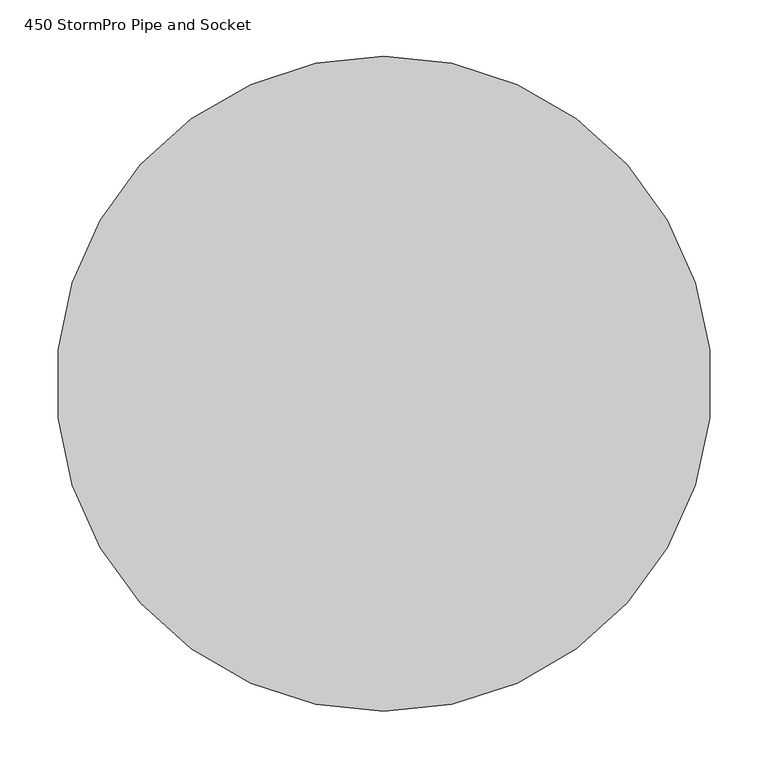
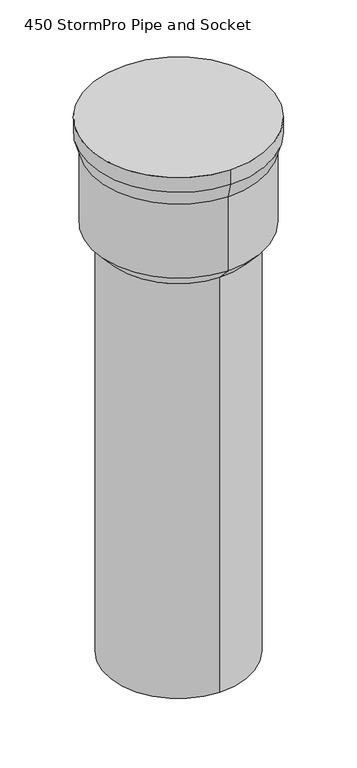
"""IFC4 building model written with IfcOpenShell, lengths in millimetres: proxy geometry, 450 StormPro Pipe and Socket."""

from ifc_helpers import new_model, si_unit, frame, origin, place, context, project, spatial, polyline, circle_curve, source, transform, mapped, element, save
from ifc_brep_helpers import plane_surface, cylinder_surface, revolved_surface, advanced_brep


def proxy_450_stormpro_pipe_and_socket_e8ca657c(model_context):
    return source(origin(), model_context, "Body", "AdvancedBrep", [
        advanced_brep(
        [(0.0, 231.0, 2700.0), (0.0, 276.0, 2750.0), (0.0, -276.0, 2750.0), (0.0, -231.0, 2700.0), (0.0, 231.0, 1300.0), (0.0, -231.0, 1300.0), (0.0, 291.0, 3050.0), (0.0, 291.0, 3100.0), (0.0, -291.0, 3100.0), (0.0, -291.0, 3050.0), (0.0, 276.0, 3000.0), (0.0, -276.0, 3000.0), (-199.6867895, -116.1300396, 1300.0)],
        [
            (0, 1),
            (1, 2, circle_curve(frame((0.0, 0.0, 2750.0), z_axis=(0.0, 0.0, -1.0), x_axis=(0.0, -1.0, 0.0)), 276.0)),
            (2, 3),
            (3, 0, circle_curve(frame((0.0, 0.0, 2700.0), z_axis=(0.0, 0.0, 1.0), x_axis=(0.0, -1.0, 0.0)), 231.0)),
            (4, 0),
            (3, 5),
            (5, 4, circle_curve(frame((0.0, 0.0, 1300.0), z_axis=(0.0, 0.0, 1.0), x_axis=(0.0, 1.0, 0.0)), 231.0)),
            (6, 7),
            (7, 8, circle_curve(frame((0.0, 0.0, 3100.0), z_axis=(0.0, 0.0, -1.0), x_axis=(0.0, 1.0, 0.0)), 291.0)),
            (8, 9),
            (9, 6, circle_curve(frame((0.0, 0.0, 3050.0), z_axis=(0.0, 0.0, 1.0), x_axis=(0.0, 1.0, 0.0)), 291.0)),
            (10, 6),
            (9, 11),
            (11, 10, circle_curve(frame((0.0, 0.0, 3000.0), z_axis=(0.0, 0.0, 1.0), x_axis=(0.0, -1.0, 0.0)), 276.0)),
            (1, 10),
            (11, 2),
            (7, 8, circle_curve(frame((0.0, 0.0, 3100.0), z_axis=(0.0, 0.0, 1.0), x_axis=(0.0, 1.0, 0.0)), 291.0)),
            (5, 12, circle_curve(frame((0.0, 0.0, 1300.0), z_axis=(0.0, 0.0, -1.0), x_axis=(0.0, 1.0, 0.0)), 231.0)),
            (12, 4, circle_curve(frame((0.0, 0.0, 1300.0), z_axis=(0.0, 0.0, -1.0), x_axis=(0.0, 1.0, 0.0)), 231.0)),
            (1, 2, circle_curve(frame((0.0, 0.0, 2750.0), z_axis=(0.0, 0.0, 1.0), x_axis=(0.0, 1.0, 0.0)), 276.0)),
            (11, 10, circle_curve(frame((0.0, 0.0, 3000.0), z_axis=(0.0, 0.0, -1.0), x_axis=(0.0, 1.0, 0.0)), 276.0)),
            (9, 6, circle_curve(frame((0.0, 0.0, 3050.0), z_axis=(0.0, 0.0, -1.0), x_axis=(0.0, 1.0, 0.0)), 291.0)),
            (3, 0, circle_curve(frame((0.0, 0.0, 2700.0), z_axis=(0.0, 0.0, -1.0), x_axis=(0.0, 1.0, 0.0)), 231.0)),
        ],
        [
            revolved_surface(polyline([(0.0, 231.0000000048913, 2700.0), (0.0, 276.0, 2750.0)]), (0.0, 0.0, 2443.3333333), (0.0, 0.0, 1.0)),
            cylinder_surface(frame((0.0, 0.0, 1350.0), z_axis=(0.0, 0.0, 1.0), x_axis=(0.0, 1.0, 0.0)), 231.0),
            cylinder_surface(frame((0.0, 0.0, 3075.0), z_axis=(0.0, 0.0, 1.0), x_axis=(0.0, 1.0, 0.0)), 291.0),
            revolved_surface(polyline([(0.0, 276.0, 3000.0), (0.0, 291.0, 3050.0)]), (0.0, 0.0, 2080.0), (0.0, 0.0, 1.0)),
            cylinder_surface(frame((0.0, 0.0, 2875.0), z_axis=(0.0, 0.0, 1.0), x_axis=(0.0, 1.0, 0.0)), 276.0),
            plane_surface(frame((0.0, 285.0, 3100.0), z_axis=(0.0, 0.0, 1.0), x_axis=(1.0, 0.0, 0.0))),
            plane_surface(frame((0.0, 0.0, 1300.0), z_axis=(0.0, 0.0, -1.0), x_axis=(-0.8644449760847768, -0.5027274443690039, 0.0))),
        ],
        [
            (0, [[1, 2, 3, 4]]),
            (1, [[5, -4, 6, 7]]),
            (2, [[8, 9, 10, 11]]),
            (3, [[12, -11, 13, 14]]),
            (4, [[15, -14, 16, -2]]),
            (5, [[17, -9]]),
            (6, [[18, 19, -7]]),
            (4, [[-15, 20, -16, 21]]),
            (3, [[-12, -21, -13, 22]]),
            (2, [[-8, -22, -10, -17]]),
            (1, [[-5, -19, -18, -6, 23]]),
            (0, [[-1, -23, -3, -20]]),
        ],
    ),
    ])


if __name__ == "__main__":
    model = new_model("IFC4")
    model_context = context("Model", 3, world=origin())
    ifc_project = project(units=[si_unit("LENGTHUNIT", "METRE", prefix="MILLI")], contexts=[model_context])
    site = spatial("IfcSite", under=ifc_project)
    building = spatial("IfcBuilding", under=site)
    placement = place(None, origin())
    proxy_450_stormpro_pipe_and_socket_shape = proxy_450_stormpro_pipe_and_socket_e8ca657c(model_context)
    element("IfcBuildingElementProxy", 1, Name="450 StormPro Pipe and Socket", ObjectType="450 StormPro Pipe and Socket", at=placement, inside=building, context=model_context, shape_type="MappedRepresentation", body=[
        mapped(proxy_450_stormpro_pipe_and_socket_shape, transform((0.0, 0.0, 0.0), x_axis=(1.0, 0.0, 0.0), y_axis=(0.0, 1.0, 0.0), z_axis=(0.0, 0.0, 1.0))),
    ])
    save(model, "model.ifc")
